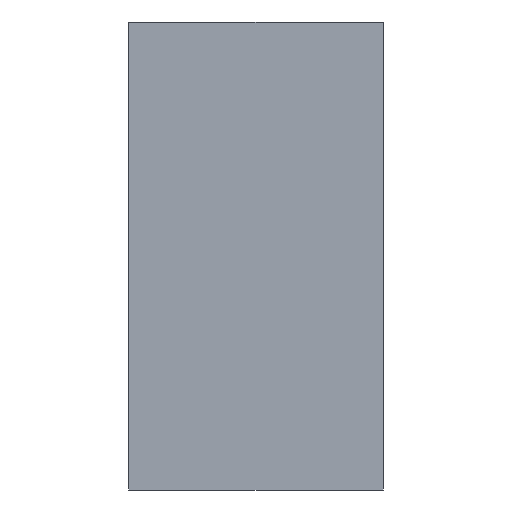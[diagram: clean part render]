
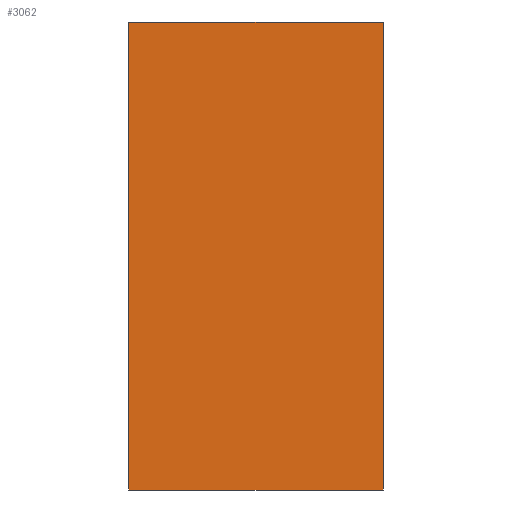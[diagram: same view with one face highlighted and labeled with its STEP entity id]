
A CAD part, front view. The second image highlights one B-rep face of the part: STEP entity #3062.
In plain terms, the highlighted planar face has unit normal (0, -1, 0).
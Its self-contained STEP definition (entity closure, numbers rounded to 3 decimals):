
#3062=ADVANCED_FACE('',(#6968),#6970,.T.);
#6968=FACE_BOUND('',#6969,.T.);
#6969=EDGE_LOOP('',(#9355,#9356,#9357,#9358));
#6970=PLANE('',#6971);
#6971=AXIS2_PLACEMENT_3D('',#6972,#6973,#6974);
#6972=CARTESIAN_POINT('',(-1.27,-1.27,0.));
#6973=DIRECTION('',(0.,-1.,0.));
#6974=DIRECTION('',(1.,0.,0.));
#9355=ORIENTED_EDGE('',*,*,#10565,.T.);
#9356=ORIENTED_EDGE('',*,*,#10562,.T.);
#9357=ORIENTED_EDGE('',*,*,#10654,.F.);
#9358=ORIENTED_EDGE('',*,*,#10578,.F.);
#10562=EDGE_CURVE('',#12246,#12244,#12247,.T.);
#10565=EDGE_CURVE('',#12249,#12246,#12251,.T.);
#10578=EDGE_CURVE('',#12249,#12276,#12277,.T.);
#10654=EDGE_CURVE('',#12276,#12244,#12411,.T.);
#12244=VERTEX_POINT('',#16045);
#12246=VERTEX_POINT('',#16049);
#12247=LINE('',#16050,#16051);
#12249=VERTEX_POINT('',#16056);
#12251=LINE('',#16060,#16061);
#12276=VERTEX_POINT('',#16111);
#12277=LINE('',#16112,#16113);
#12411=LINE('',#16398,#16399);
#16045=CARTESIAN_POINT('',(6.35,-1.27,14.));
#16049=CARTESIAN_POINT('',(6.35,-1.27,0.));
#16050=CARTESIAN_POINT('',(6.35,-1.27,0.));
#16051=VECTOR('',#16052,1.);
#16052=DIRECTION('',(0.,0.,1.));
#16056=CARTESIAN_POINT('',(-1.27,-1.27,0.));
#16060=CARTESIAN_POINT('',(-1.27,-1.27,0.));
#16061=VECTOR('',#16062,1.);
#16062=DIRECTION('',(1.,0.,0.));
#16111=CARTESIAN_POINT('',(-1.27,-1.27,14.));
#16112=CARTESIAN_POINT('',(-1.27,-1.27,0.));
#16113=VECTOR('',#16114,1.);
#16114=DIRECTION('',(0.,0.,1.));
#16398=CARTESIAN_POINT('',(-1.27,-1.27,14.));
#16399=VECTOR('',#16400,1.);
#16400=DIRECTION('',(1.,0.,0.));
